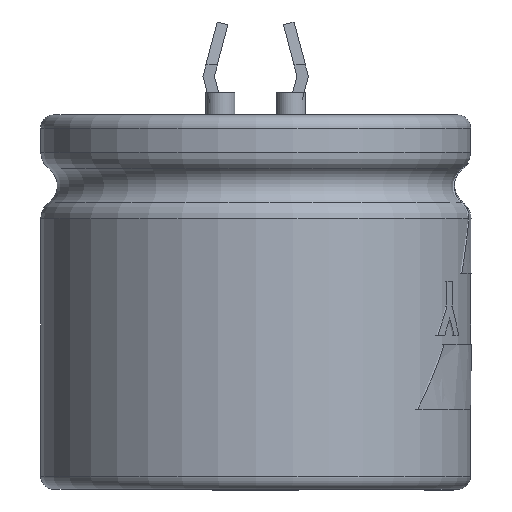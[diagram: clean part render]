
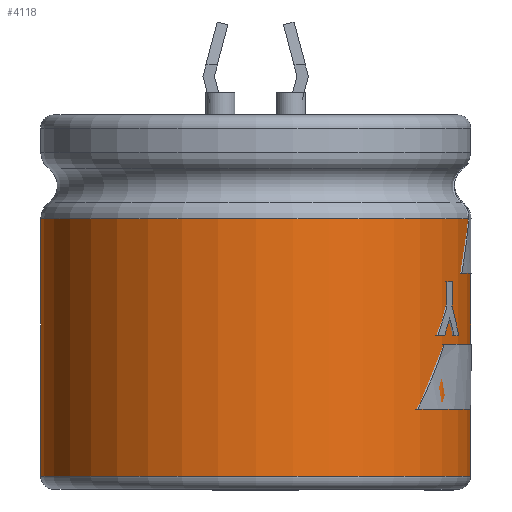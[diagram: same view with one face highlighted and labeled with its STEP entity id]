
A CAD part, left-side view. The second image highlights one B-rep face of the part: STEP entity #4118.
In plain terms, the highlighted cylindrical face has radius 15.5 mm (diameter 31 mm), a full revolution.
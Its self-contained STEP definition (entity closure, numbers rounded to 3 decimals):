
#4050 = TOROIDAL_SURFACE('',#4051,14.,1.5);
#4051 = AXIS2_PLACEMENT_3D('',#4052,#4053,#4054);
#4052 = CARTESIAN_POINT('',(0.,0.,-6.55));
#4053 = DIRECTION('',(0.,0.,1.));
#4054 = DIRECTION('',(1.,0.,0.));
#4066 = EDGE_CURVE('',#4067,#4067,#4069,.T.);
#4067 = VERTEX_POINT('',#4068);
#4068 = CARTESIAN_POINT('',(15.5,0.,
    -6.55));
#4069 = SURFACE_CURVE('',#4070,(#4075,#4082),.PCURVE_S1.);
#4070 = CIRCLE('',#4071,15.5);
#4071 = AXIS2_PLACEMENT_3D('',#4072,#4073,#4074);
#4072 = CARTESIAN_POINT('',(0.,0.,-6.55));
#4073 = DIRECTION('',(0.,0.,1.));
#4074 = DIRECTION('',(1.,0.,0.));
#4075 = PCURVE('',#4050,#4076);
#4076 = DEFINITIONAL_REPRESENTATION('',(#4077),#4081);
#4077 = LINE('',#4078,#4079);
#4078 = CARTESIAN_POINT('',(0.,0.));
#4079 = VECTOR('',#4080,1.);
#4080 = DIRECTION('',(1.,0.));
#4081 = ( GEOMETRIC_REPRESENTATION_CONTEXT(2) 
PARAMETRIC_REPRESENTATION_CONTEXT() REPRESENTATION_CONTEXT('2D SPACE',''
  ) );
#4082 = PCURVE('',#4083,#4088);
#4083 = CYLINDRICAL_SURFACE('',#4084,15.5);
#4084 = AXIS2_PLACEMENT_3D('',#4085,#4086,#4087);
#4085 = CARTESIAN_POINT('',(0.,0.,-25.1));
#4086 = DIRECTION('',(0.,0.,1.));
#4087 = DIRECTION('',(1.,0.,0.));
#4088 = DEFINITIONAL_REPRESENTATION('',(#4089),#4093);
#4089 = LINE('',#4090,#4091);
#4090 = CARTESIAN_POINT('',(0.,18.55));
#4091 = VECTOR('',#4092,1.);
#4092 = DIRECTION('',(1.,0.));
#4093 = ( GEOMETRIC_REPRESENTATION_CONTEXT(2) 
PARAMETRIC_REPRESENTATION_CONTEXT() REPRESENTATION_CONTEXT('2D SPACE',''
  ) );
#4118 = ADVANCED_FACE('',(#4119),#4083,.T.);
#4119 = FACE_BOUND('',#4120,.T.);
#4120 = EDGE_LOOP('',(#4121,#4150,#4171,#4172));
#4121 = ORIENTED_EDGE('',*,*,#4122,.T.);
#4122 = EDGE_CURVE('',#4123,#4123,#4125,.T.);
#4123 = VERTEX_POINT('',#4124);
#4124 = CARTESIAN_POINT('',(15.5,0.,-25.1));
#4125 = SURFACE_CURVE('',#4126,(#4131,#4138),.PCURVE_S1.);
#4126 = CIRCLE('',#4127,15.5);
#4127 = AXIS2_PLACEMENT_3D('',#4128,#4129,#4130);
#4128 = CARTESIAN_POINT('',(0.,0.,-25.1));
#4129 = DIRECTION('',(0.,0.,1.));
#4130 = DIRECTION('',(1.,0.,0.));
#4131 = PCURVE('',#4083,#4132);
#4132 = DEFINITIONAL_REPRESENTATION('',(#4133),#4137);
#4133 = LINE('',#4134,#4135);
#4134 = CARTESIAN_POINT('',(0.,0.));
#4135 = VECTOR('',#4136,1.);
#4136 = DIRECTION('',(1.,0.));
#4137 = ( GEOMETRIC_REPRESENTATION_CONTEXT(2) 
PARAMETRIC_REPRESENTATION_CONTEXT() REPRESENTATION_CONTEXT('2D SPACE',''
  ) );
#4138 = PCURVE('',#4139,#4144);
#4139 = TOROIDAL_SURFACE('',#4140,14.55,0.95);
#4140 = AXIS2_PLACEMENT_3D('',#4141,#4142,#4143);
#4141 = CARTESIAN_POINT('',(0.,0.,-25.1));
#4142 = DIRECTION('',(0.,0.,1.));
#4143 = DIRECTION('',(1.,0.,0.));
#4144 = DEFINITIONAL_REPRESENTATION('',(#4145),#4149);
#4145 = LINE('',#4146,#4147);
#4146 = CARTESIAN_POINT('',(0.,6.283));
#4147 = VECTOR('',#4148,1.);
#4148 = DIRECTION('',(1.,0.));
#4149 = ( GEOMETRIC_REPRESENTATION_CONTEXT(2) 
PARAMETRIC_REPRESENTATION_CONTEXT() REPRESENTATION_CONTEXT('2D SPACE',''
  ) );
#4150 = ORIENTED_EDGE('',*,*,#4151,.T.);
#4151 = EDGE_CURVE('',#4123,#4067,#4152,.T.);
#4152 = SEAM_CURVE('',#4153,(#4157,#4164),.PCURVE_S1.);
#4153 = LINE('',#4154,#4155);
#4154 = CARTESIAN_POINT('',(15.5,0.,-25.1));
#4155 = VECTOR('',#4156,1.);
#4156 = DIRECTION('',(0.,0.,1.));
#4157 = PCURVE('',#4083,#4158);
#4158 = DEFINITIONAL_REPRESENTATION('',(#4159),#4163);
#4159 = LINE('',#4160,#4161);
#4160 = CARTESIAN_POINT('',(0.,0.));
#4161 = VECTOR('',#4162,1.);
#4162 = DIRECTION('',(0.,1.));
#4163 = ( GEOMETRIC_REPRESENTATION_CONTEXT(2) 
PARAMETRIC_REPRESENTATION_CONTEXT() REPRESENTATION_CONTEXT('2D SPACE',''
  ) );
#4164 = PCURVE('',#4083,#4165);
#4165 = DEFINITIONAL_REPRESENTATION('',(#4166),#4170);
#4166 = LINE('',#4167,#4168);
#4167 = CARTESIAN_POINT('',(6.283,0.));
#4168 = VECTOR('',#4169,1.);
#4169 = DIRECTION('',(0.,1.));
#4170 = ( GEOMETRIC_REPRESENTATION_CONTEXT(2) 
PARAMETRIC_REPRESENTATION_CONTEXT() REPRESENTATION_CONTEXT('2D SPACE',''
  ) );
#4171 = ORIENTED_EDGE('',*,*,#4066,.F.);
#4172 = ORIENTED_EDGE('',*,*,#4151,.F.);
